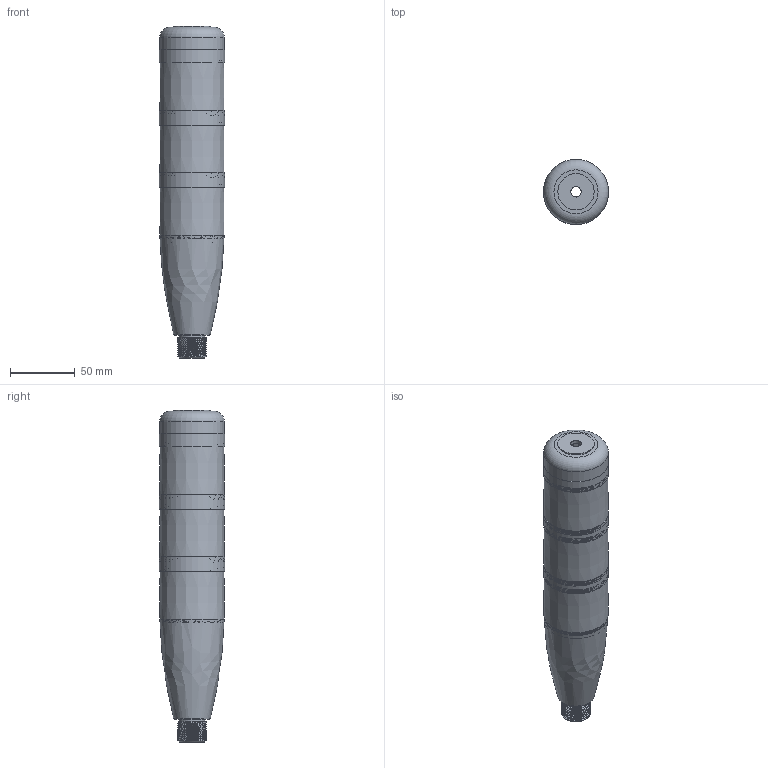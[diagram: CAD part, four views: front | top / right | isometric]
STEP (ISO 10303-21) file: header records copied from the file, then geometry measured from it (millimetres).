
FILE_DESCRIPTION(/* description */ (''),/* implementation_level */ '2;1');
FILE_NAME(/* name */ 'OLE3-301 带蜂鸣.stp',/* time_stamp */ '2022-12-13T18:21:56+08:00',/* author */ (''),/* organization */ (''),/* preprocessor_version */ 'ST-DEVELOPER v16.7',/* originating_system */ 'SIEMENS PLM Software NX 12.0',/* authorisation */ '');
FILE_SCHEMA (('AUTOMOTIVE_DESIGN { 1 0 10303 214 3 1 1 1 }'));
Length unit declared in the file: millimetre
Products named in the file (1): Admi15EC76A1t4v9
Bounding box: 50.3 x 50.3 x 256.5 mm (x, y, z)
Volume: 83469.5 mm3; surface area: 107030.7 mm2
Topology: 8 solids, 10 shells, 1266 faces, 3665 edges, 2442 vertices
Faces by surface type: plane 782, cylinder 422, bspline 47, cone 13, torus 2
Full cylindrical faces by diameter (mm): 8 x1, 18 x2, 20 x1, 28 x1, 32 x3, 39 x3, 42 x1, 43 x3, 44 x3, 46.3 x6, 47 x1, 48.1 x1, 50 x1, 50.3 x3
Entity records: 62646 total; most frequent: CARTESIAN_POINT 28970, ORIENTED_EDGE 7170, DIRECTION 7019, EDGE_CURVE 3585, VERTEX_POINT 2405, AXIS2_PLACEMENT_3D 2402, LINE 2215, VECTOR 2215
